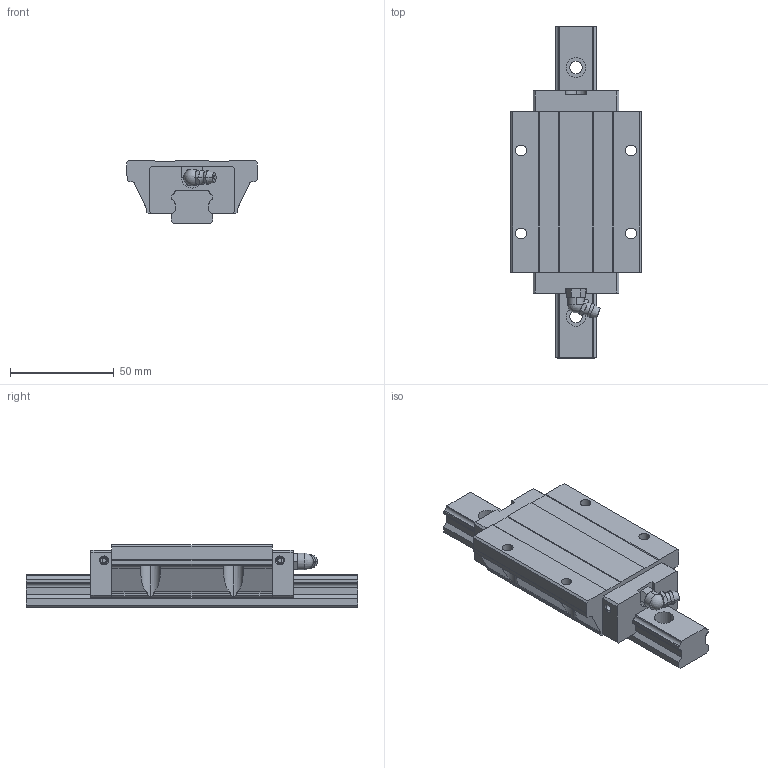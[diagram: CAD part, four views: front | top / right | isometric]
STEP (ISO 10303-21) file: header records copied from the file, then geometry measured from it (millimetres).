
FILE_DESCRIPTION((''),'1');
FILE_NAME(' ',' ',(''),(''),'ACIS Interop R16','Kubotek KeyCreator V6.5.2 (0407)',' ');
FILE_SCHEMA(('CONFIG_CONTROL_DESIGN'));
Length unit declared in the file: millimetre
Products named in the file (3): 1; 2; 3
Bounding box: 63 x 160 x 30 mm (x, y, z)
Volume: 147368 mm3; surface area: 34573.8 mm2
Topology: 3 solids, 3 shells, 237 faces, 647 edges, 429 vertices
Faces by surface type: plane 126, cylinder 86, torus 10, cone 10, sphere 3, bspline 2
Entity records: 7920 total; most frequent: CARTESIAN_POINT 1596, DIRECTION 1322, ORIENTED_EDGE 1290, EDGE_CURVE 645, AXIS2_PLACEMENT_3D 467, VERTEX_POINT 429, LINE 388, VECTOR 388
